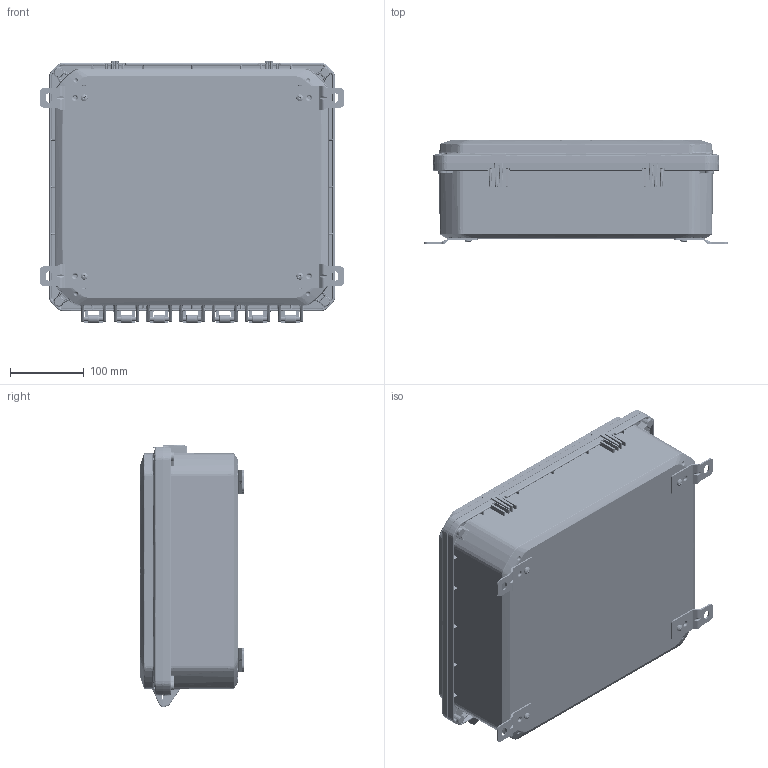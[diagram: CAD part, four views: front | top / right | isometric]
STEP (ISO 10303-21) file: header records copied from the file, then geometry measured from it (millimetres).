
FILE_DESCRIPTION (( 'STEP AP214' ), '1' );
FILE_NAME ('ZH-141204-44.STEP', '2024-10-25T19:35:33', ( '' ), ( '' ), 'SwSTEP 2.0', 'SolidWorks 2024', '' );
FILE_SCHEMA (( 'AUTOMOTIVE_DESIGN' ));
Length unit declared in the file: inch
Products named in the file (11): LABEL-104; ZH-91F-01_ZH-91F-01; Z_-14124BI_ZH-14124BI-01; Z_-14121C_ZH-14121C-01; ZH-141204-44; Z_-14124B_ZH-14124B-01; ZH-1412G; SCREWS-049_SCREWS-049; INSERTS-4; SCREWS-047_default; Z_-14121CG_ZH-14121CG-01
Assembly tree (30 placements, depth 3):
  ZH-141204-44
    Z_-14124BI_ZH-14124BI-01
      Z_-14124B_ZH-14124B-01
      INSERTS-4  x12
      LABEL-104
    Z_-14121CG_ZH-14121CG-01
      Z_-14121C_ZH-14121C-01
      ZH-1412G
    SCREWS-047_default  x4
    ZH-91F-01_ZH-91F-01  x4
    SCREWS-049_SCREWS-049  x4
Bounding box: 412.75 x 139.7 x 355.47 mm (x, y, z)
Volume: 2104640.2 mm3; surface area: 1007412.9 mm2
Topology: 28 solids, 28 shells, 7407 faces, 18213 edges, 10804 vertices
Faces by surface type: bspline 2279, cylinder 1854, plane 1642, cone 848, torus 744, sphere 40
Entity records: 276093 total; most frequent: CARTESIAN_POINT 155732, ORIENTED_EDGE 28248, DIRECTION 21741, EDGE_CURVE 14124, AXIS2_PLACEMENT_3D 8900, VERTEX_POINT 8276, EDGE_LOOP 6148, FACE_OUTER_BOUND 5984
